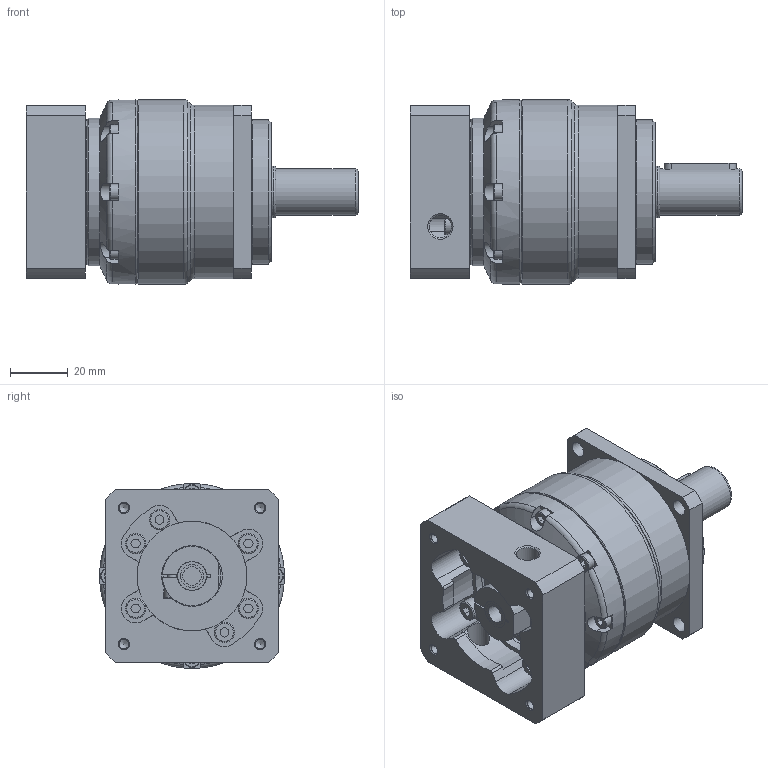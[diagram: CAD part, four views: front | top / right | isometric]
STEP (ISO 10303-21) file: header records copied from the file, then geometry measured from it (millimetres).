
FILE_DESCRIPTION(/* description */ (''),/* implementation_level */ '2;1');
FILE_NAME(/* name */ 'WEB060-L1-38.1-47.14-M4-6.35-31.5.stp',/* time_stamp */ '2025-08-13T14:07:03+08:00',/* author */ (''),/* organization */ (''),/* preprocessor_version */ 'ST-DEVELOPER v16.7',/* originating_system */ 'SIEMENS PLM Software NX 12.0',/* authorisation */ '');
FILE_SCHEMA (('AUTOMOTIVE_DESIGN { 1 0 10303 214 3 1 1 1 }'));
Length unit declared in the file: millimetre
Products named in the file (5): 042-SJT(M3)-10_Lock sleeve; RLZ060-6.35-31.5; DZ060-38.1-47.14-M4x10-5-60-21; WVRB060-L1-3-P2-38.1-47.14-M4-8-31.5-60_M_Dummy; WVRB060-L1-3-P2-38.1-47.14-M4-8-31.5-60_M_stp
Assembly tree (4 placements, depth 2):
  WVRB060-L1-3-P2-38.1-47.14-M4-8-31.5-60_M_stp
    WVRB060-L1-3-P2-38.1-47.14-M4-8-31.5-60_M_Dummy
    DZ060-38.1-47.14-M4x10-5-60-21
    RLZ060-6.35-31.5
    042-SJT(M3)-10_Lock sleeve
Bounding box: 115 x 64 x 64 mm (x, y, z)
Volume: 235052.8 mm3; surface area: 50246.5 mm2
Topology: 6 solids, 6 shells, 356 faces, 873 edges, 567 vertices
Faces by surface type: plane 209, cylinder 96, torus 30, cone 21
Full cylindrical faces by diameter (mm): 2.5 x1, 3 x1, 3.242 x4, 3.3 x1, 4.134 x1, 5 x1, 5.3 x1, 5.5 x13, 6.35 x1, 7 x6, 7.8 x2, 8 x2, 10 x1, 15.4 x1, 16 x1, 18 x1, 20 x1, 21 x1, 38 x1, 40 x1, 42 x1, 50 x1, 51 x1, 60 x1, 64 x2
Entity records: 12837 total; most frequent: CARTESIAN_POINT 2264, DIRECTION 1683, ORIENTED_EDGE 1508, EDGE_CURVE 754, AXIS2_PLACEMENT_3D 614, VERTEX_POINT 544, EDGE_LOOP 505, LINE 455
